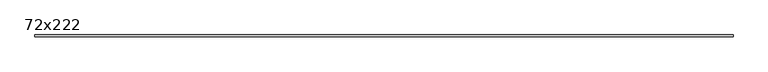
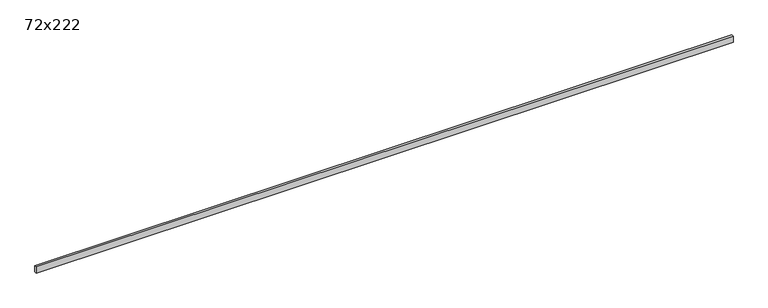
"""IFC4 building model written with IfcOpenShell, lengths in millimetres: beam geometry, C&L poutre bois : 72x222."""

from ifc_helpers import new_model, si_unit, frame, origin, place, context, project, spatial, polyline, outline, extrude, source, transform, mapped, element, save


def beam_72x222_a80af8fe(model_context):
    return source(origin(), model_context, "Body", "SweptSolid", [
        extrude(outline(polyline([(12072.0812746, 36.0), (12072.0812746, -36.0), (-12072.0812746, -36.0), (-12072.0812746, 36.0), (12072.0812746, 36.0)])), frame((0.0, 0.0, -112.5), z_axis=(0.0, 0.0, 1.0), x_axis=(1.0, 0.0, 0.0)), (0.0, 0.0, 1.0), 225.0),
    ])


if __name__ == "__main__":
    model = new_model("IFC4")
    model_context = context("Model", 3, world=origin())
    ifc_project = project(units=[si_unit("LENGTHUNIT", "METRE", prefix="MILLI")], contexts=[model_context])
    site = spatial("IfcSite", under=ifc_project)
    building = spatial("IfcBuilding", under=site)
    placement = place(None, origin())
    beam_72x222_shape = beam_72x222_a80af8fe(model_context)
    element("IfcBeam", 1, ObjectType="C&L poutre bois : 72x222", at=placement, inside=building, context=model_context, shape_type="MappedRepresentation", body=[
        mapped(beam_72x222_shape, transform((0.0, 0.0, 0.0), x_axis=(1.0, 0.0, 0.0), y_axis=(0.0, 1.0, 0.0), z_axis=(0.0, 0.0, 1.0))),
    ])
    save(model, "model.ifc")
